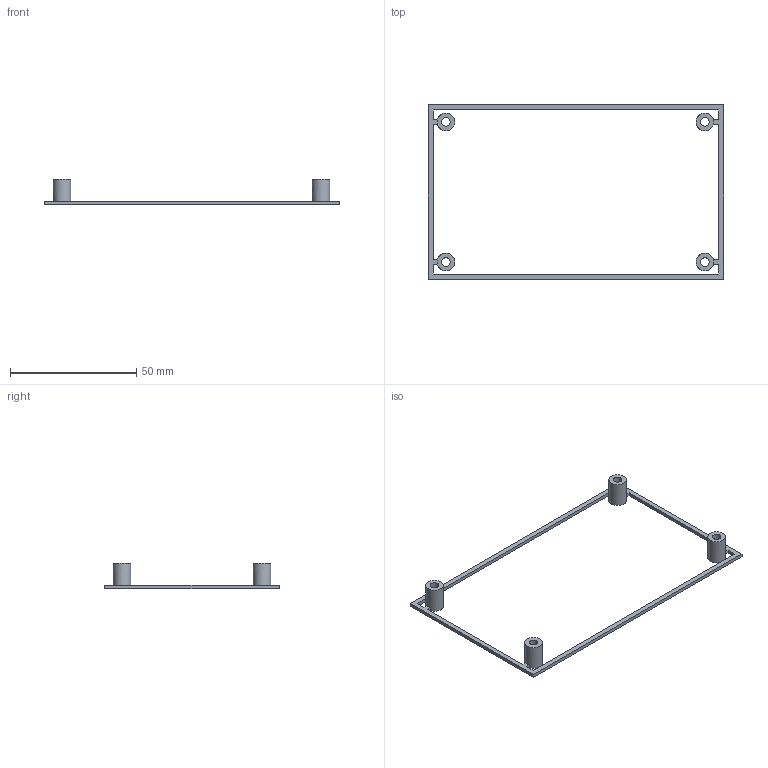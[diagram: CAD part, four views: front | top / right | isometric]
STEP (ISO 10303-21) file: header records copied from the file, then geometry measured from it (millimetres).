
FILE_DESCRIPTION(('Open CASCADE Model'),'2;1');
FILE_NAME('Open CASCADE Shape Model','2026-11-10T17:02:06',('Author'),( 'Open CASCADE'),'Open CASCADE STEP processor 7.9','Open CASCADE 7.9' ,'Unknown');
FILE_SCHEMA(('AUTOMOTIVE_DESIGN { 1 0 10303 214 1 1 1 1 }'));
Length unit declared in the file: millimetre
Products named in the file (2): T12_Display_spacer_frame; 01_Display_spacer_frame
Assembly tree (1 placements, depth 2):
  T12_Display_spacer_frame
    01_Display_spacer_frame
Bounding box: 117 x 69 x 10.1 mm (x, y, z)
Volume: 2226.2 mm3; surface area: 4055.8 mm2
Topology: 1 solids, 1 shells, 34 faces, 96 edges, 64 vertices
Faces by surface type: plane 26, cylinder 8
Full cylindrical faces by diameter (mm): 3.4 x4, 7 x4
Entity records: 2451 total; most frequent: CARTESIAN_POINT 472, DIRECTION 370, LINE 240, VECTOR 240, ORIENTED_EDGE 192, PCURVE 192, DEFINITIONAL_REPRESENTATION 192, EDGE_CURVE 96
